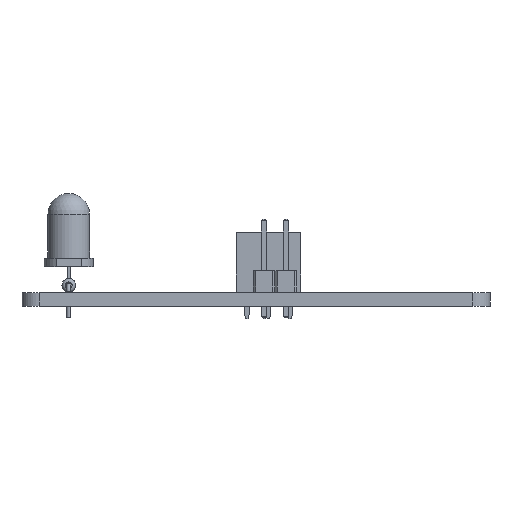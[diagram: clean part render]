
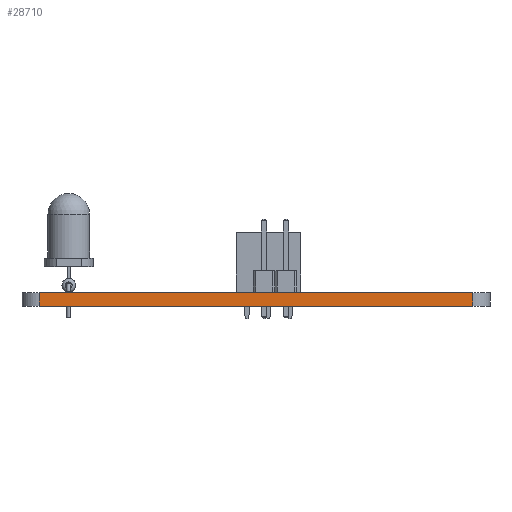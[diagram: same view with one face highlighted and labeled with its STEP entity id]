
A CAD part, front view. The second image highlights one B-rep face of the part: STEP entity #28710.
In plain terms, the highlighted planar face has unit normal (0, -1, 0).
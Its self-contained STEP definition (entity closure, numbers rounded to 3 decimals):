
#23636 = PLANE('',#23637);
#23637 = AXIS2_PLACEMENT_3D('',#23638,#23639,#23640);
#23638 = CARTESIAN_POINT('',(127.5,-82.5,1.6));
#23639 = DIRECTION('',(0.,0.,1.));
#23640 = DIRECTION('',(1.,0.,-0.));
#23690 = PLANE('',#23691);
#23691 = AXIS2_PLACEMENT_3D('',#23692,#23693,#23694);
#23692 = CARTESIAN_POINT('',(127.5,-82.5,0.));
#23693 = DIRECTION('',(0.,0.,1.));
#23694 = DIRECTION('',(1.,0.,-0.));
#23915 = VERTEX_POINT('',#23916);
#23916 = CARTESIAN_POINT('',(102.,-115.,0.));
#23931 = CYLINDRICAL_SURFACE('',#23932,2.);
#23932 = AXIS2_PLACEMENT_3D('',#23933,#23934,#23935);
#23933 = CARTESIAN_POINT('',(102.,-113.,0.));
#23934 = DIRECTION('',(-0.,-0.,-1.));
#23935 = DIRECTION('',(1.,0.,-0.));
#23943 = EDGE_CURVE('',#23915,#23944,#23946,.T.);
#23944 = VERTEX_POINT('',#23945);
#23945 = CARTESIAN_POINT('',(153.,-115.,0.));
#23946 = SURFACE_CURVE('',#23947,(#23951,#23958),.PCURVE_S1.);
#23947 = LINE('',#23948,#23949);
#23948 = CARTESIAN_POINT('',(102.,-115.,0.));
#23949 = VECTOR('',#23950,1.);
#23950 = DIRECTION('',(1.,0.,0.));
#23951 = PCURVE('',#23690,#23952);
#23952 = DEFINITIONAL_REPRESENTATION('',(#23953),#23957);
#23953 = LINE('',#23954,#23955);
#23954 = CARTESIAN_POINT('',(-25.5,-32.5));
#23955 = VECTOR('',#23956,1.);
#23956 = DIRECTION('',(1.,0.));
#23957 = ( GEOMETRIC_REPRESENTATION_CONTEXT(2) 
PARAMETRIC_REPRESENTATION_CONTEXT() REPRESENTATION_CONTEXT('2D SPACE',''
  ) );
#23958 = PCURVE('',#23959,#23964);
#23959 = PLANE('',#23960);
#23960 = AXIS2_PLACEMENT_3D('',#23961,#23962,#23963);
#23961 = CARTESIAN_POINT('',(102.,-115.,0.));
#23962 = DIRECTION('',(0.,1.,0.));
#23963 = DIRECTION('',(1.,0.,0.));
#23964 = DEFINITIONAL_REPRESENTATION('',(#23965),#23969);
#23965 = LINE('',#23966,#23967);
#23966 = CARTESIAN_POINT('',(0.,0.));
#23967 = VECTOR('',#23968,1.);
#23968 = DIRECTION('',(1.,0.));
#23969 = ( GEOMETRIC_REPRESENTATION_CONTEXT(2) 
PARAMETRIC_REPRESENTATION_CONTEXT() REPRESENTATION_CONTEXT('2D SPACE',''
  ) );
#23988 = CYLINDRICAL_SURFACE('',#23989,2.);
#23989 = AXIS2_PLACEMENT_3D('',#23990,#23991,#23992);
#23990 = CARTESIAN_POINT('',(153.,-113.,0.));
#23991 = DIRECTION('',(-0.,-0.,-1.));
#23992 = DIRECTION('',(1.,0.,-0.));
#26458 = VERTEX_POINT('',#26459);
#26459 = CARTESIAN_POINT('',(102.,-115.,1.6));
#26481 = EDGE_CURVE('',#26458,#26482,#26484,.T.);
#26482 = VERTEX_POINT('',#26483);
#26483 = CARTESIAN_POINT('',(153.,-115.,1.6));
#26484 = SURFACE_CURVE('',#26485,(#26489,#26496),.PCURVE_S1.);
#26485 = LINE('',#26486,#26487);
#26486 = CARTESIAN_POINT('',(102.,-115.,1.6));
#26487 = VECTOR('',#26488,1.);
#26488 = DIRECTION('',(1.,0.,0.));
#26489 = PCURVE('',#23636,#26490);
#26490 = DEFINITIONAL_REPRESENTATION('',(#26491),#26495);
#26491 = LINE('',#26492,#26493);
#26492 = CARTESIAN_POINT('',(-25.5,-32.5));
#26493 = VECTOR('',#26494,1.);
#26494 = DIRECTION('',(1.,0.));
#26495 = ( GEOMETRIC_REPRESENTATION_CONTEXT(2) 
PARAMETRIC_REPRESENTATION_CONTEXT() REPRESENTATION_CONTEXT('2D SPACE',''
  ) );
#26496 = PCURVE('',#23959,#26497);
#26497 = DEFINITIONAL_REPRESENTATION('',(#26498),#26502);
#26498 = LINE('',#26499,#26500);
#26499 = CARTESIAN_POINT('',(0.,-1.6));
#26500 = VECTOR('',#26501,1.);
#26501 = DIRECTION('',(1.,0.));
#26502 = ( GEOMETRIC_REPRESENTATION_CONTEXT(2) 
PARAMETRIC_REPRESENTATION_CONTEXT() REPRESENTATION_CONTEXT('2D SPACE',''
  ) );
#28660 = EDGE_CURVE('',#23944,#26482,#28661,.T.);
#28661 = SURFACE_CURVE('',#28662,(#28666,#28673),.PCURVE_S1.);
#28662 = LINE('',#28663,#28664);
#28663 = CARTESIAN_POINT('',(153.,-115.,0.));
#28664 = VECTOR('',#28665,1.);
#28665 = DIRECTION('',(0.,0.,1.));
#28666 = PCURVE('',#23988,#28667);
#28667 = DEFINITIONAL_REPRESENTATION('',(#28668),#28672);
#28668 = LINE('',#28669,#28670);
#28669 = CARTESIAN_POINT('',(-4.712,0.));
#28670 = VECTOR('',#28671,1.);
#28671 = DIRECTION('',(-0.,-1.));
#28672 = ( GEOMETRIC_REPRESENTATION_CONTEXT(2) 
PARAMETRIC_REPRESENTATION_CONTEXT() REPRESENTATION_CONTEXT('2D SPACE',''
  ) );
#28673 = PCURVE('',#23959,#28674);
#28674 = DEFINITIONAL_REPRESENTATION('',(#28675),#28679);
#28675 = LINE('',#28676,#28677);
#28676 = CARTESIAN_POINT('',(51.,0.));
#28677 = VECTOR('',#28678,1.);
#28678 = DIRECTION('',(0.,-1.));
#28679 = ( GEOMETRIC_REPRESENTATION_CONTEXT(2) 
PARAMETRIC_REPRESENTATION_CONTEXT() REPRESENTATION_CONTEXT('2D SPACE',''
  ) );
#28689 = EDGE_CURVE('',#23915,#26458,#28690,.T.);
#28690 = SURFACE_CURVE('',#28691,(#28695,#28702),.PCURVE_S1.);
#28691 = LINE('',#28692,#28693);
#28692 = CARTESIAN_POINT('',(102.,-115.,0.));
#28693 = VECTOR('',#28694,1.);
#28694 = DIRECTION('',(0.,0.,1.));
#28695 = PCURVE('',#23931,#28696);
#28696 = DEFINITIONAL_REPRESENTATION('',(#28697),#28701);
#28697 = LINE('',#28698,#28699);
#28698 = CARTESIAN_POINT('',(-4.712,0.));
#28699 = VECTOR('',#28700,1.);
#28700 = DIRECTION('',(-0.,-1.));
#28701 = ( GEOMETRIC_REPRESENTATION_CONTEXT(2) 
PARAMETRIC_REPRESENTATION_CONTEXT() REPRESENTATION_CONTEXT('2D SPACE',''
  ) );
#28702 = PCURVE('',#23959,#28703);
#28703 = DEFINITIONAL_REPRESENTATION('',(#28704),#28708);
#28704 = LINE('',#28705,#28706);
#28705 = CARTESIAN_POINT('',(0.,0.));
#28706 = VECTOR('',#28707,1.);
#28707 = DIRECTION('',(0.,-1.));
#28708 = ( GEOMETRIC_REPRESENTATION_CONTEXT(2) 
PARAMETRIC_REPRESENTATION_CONTEXT() REPRESENTATION_CONTEXT('2D SPACE',''
  ) );
#28710 = ADVANCED_FACE('',(#28711),#23959,.F.);
#28711 = FACE_BOUND('',#28712,.F.);
#28712 = EDGE_LOOP('',(#28713,#28714,#28715,#28716));
#28713 = ORIENTED_EDGE('',*,*,#28689,.T.);
#28714 = ORIENTED_EDGE('',*,*,#26481,.T.);
#28715 = ORIENTED_EDGE('',*,*,#28660,.F.);
#28716 = ORIENTED_EDGE('',*,*,#23943,.F.);
